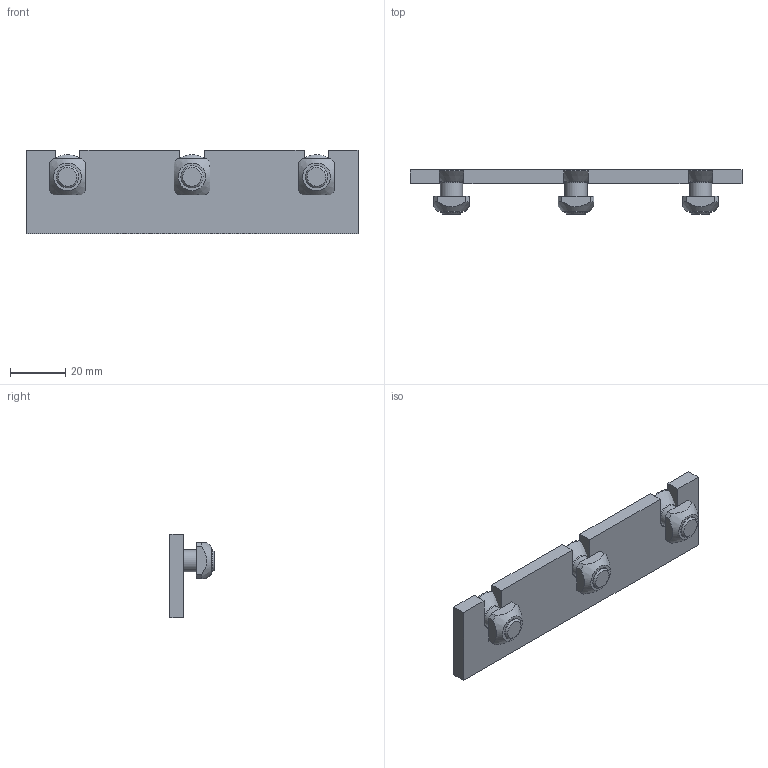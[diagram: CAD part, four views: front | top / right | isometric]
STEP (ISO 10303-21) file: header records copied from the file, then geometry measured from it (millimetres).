
FILE_DESCRIPTION((''),'2;1');
FILE_NAME('C:\Documents and Settings\Administrator\My Documents\Andys Backup Data\ANDY''S INVENTOR\INVENTOR LIBRARIES\MINITEC INVENTOR LIBRARIES\FASTENING ELEMENTS\A PACKED FILES\STEP FILES\21.1113 CONNECTING BAR.stp','2010-06-24T08:26:43',('Administrator'),(''),'Autodesk Inventor 2009','Autodesk Inventor 2009','');
FILE_SCHEMA(('CONFIG_CONTROL_DESIGN'));
Length unit declared in the file: millimetre
Products named in the file (4): 21.1113 CONNECTING BAR; 21.1513 M8x16 C'SUNK; 21.1351 M8 SQUARE NUT
Assembly tree (4 placements, depth 2):
  21.1113 CONNECTING BAR
    21.1113 CONNECTING BAR
    21.1351 M8 SQUARE NUT  x3
  21.1513 M8x16 C'SUNK
Bounding box: 120 x 16 x 30 mm (x, y, z)
Volume: 20464.6 mm3; surface area: 12392.9 mm2
Topology: 7 solids, 7 shells, 99 faces, 234 edges, 152 vertices
Faces by surface type: plane 72, cylinder 12, cone 9, bspline 6
Full cylindrical faces by diameter (mm): 8 x6, 16 x3
Entity records: 1572 total; most frequent: CARTESIAN_POINT 364, DIRECTION 220, ORIENTED_EDGE 216, EDGE_CURVE 108, VECTOR 76, LINE 76, VERTEX_POINT 75, AXIS2_PLACEMENT_3D 72
